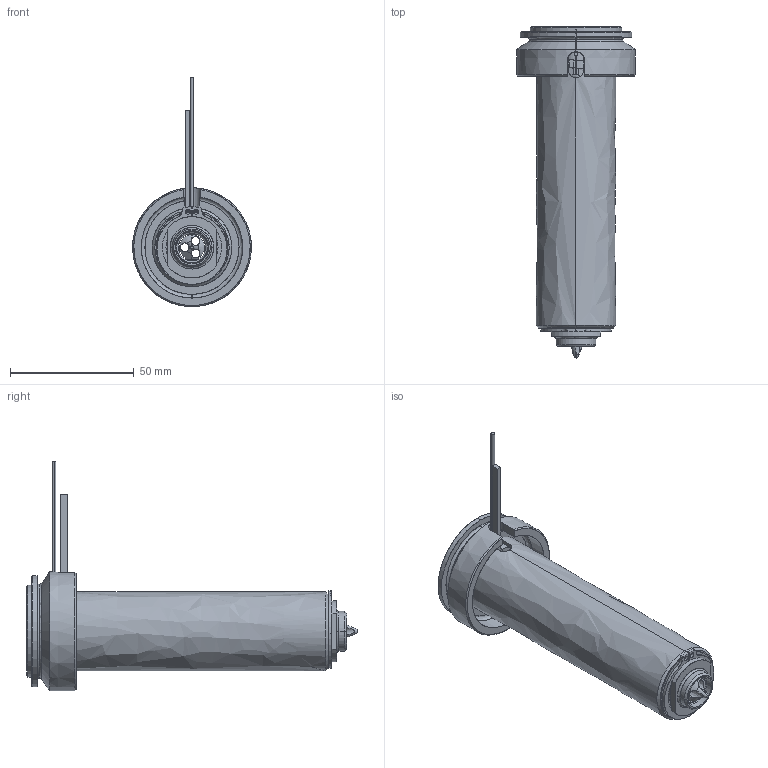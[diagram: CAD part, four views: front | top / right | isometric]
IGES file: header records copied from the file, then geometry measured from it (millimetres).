
Start section: SolidWorks IGES file using analytic representation for surfaces
Global section: file name: C:\Documents and Settings\ws-20\Desktop\TEM\UGEP5003-M-A-0 [Øf-1.18 ØC-12].IGS; native system: SolidWorks 2012; preprocessor: SolidWorks 2012; author: ws-20; date: 120426.095936; units: millimetre
Bounding box: 48 x 134.05 x 92.62 mm (x, y, z)
Surface area: 49598.7 mm2 (no closed solid volume)
Topology: 0 solids, 0 shells, 121 faces, 2281 edges, 2281 vertices
Faces by surface type: revolution 75, bspline 46
